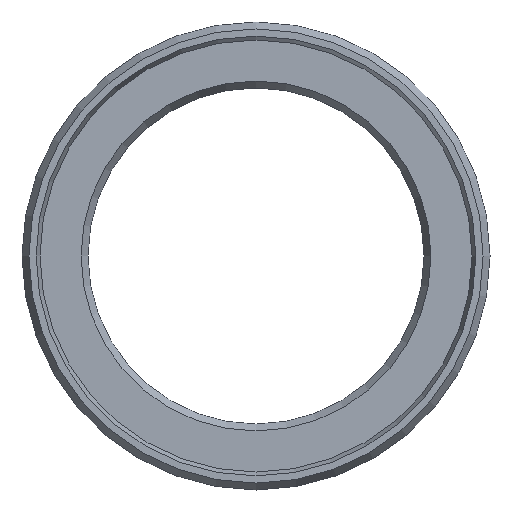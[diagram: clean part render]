
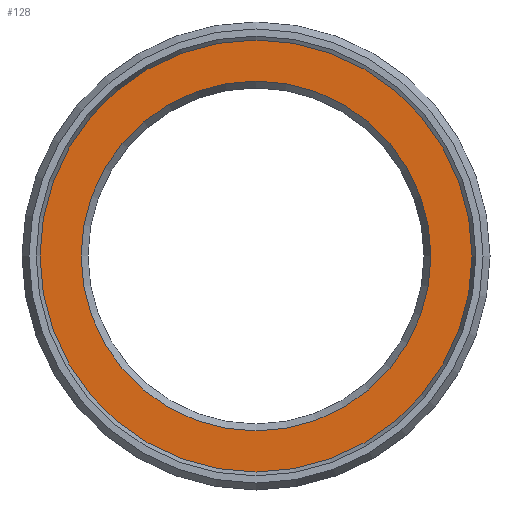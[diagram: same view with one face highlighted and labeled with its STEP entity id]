
A CAD part, left-side view. The second image highlights one B-rep face of the part: STEP entity #128.
In plain terms, the highlighted planar face has unit normal (-1, 0, 0).
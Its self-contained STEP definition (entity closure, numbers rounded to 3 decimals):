
#112=PLANE('',#329);
#128=ADVANCED_FACE('',(#163,#164),#112,.T.);
#163=FACE_BOUND('',#199,.T.);
#164=FACE_BOUND('',#200,.T.);
#199=EDGE_LOOP('',(#235));
#200=EDGE_LOOP('',(#236));
#235=ORIENTED_EDGE('',*,*,#276,.T.);
#236=ORIENTED_EDGE('',*,*,#275,.F.);
#257=VERTEX_POINT('',#454);
#258=VERTEX_POINT('',#457);
#275=EDGE_CURVE('',#257,#257,#293,.T.);
#276=EDGE_CURVE('',#258,#258,#294,.T.);
#293=CIRCLE('',#326,18.);
#294=CIRCLE('',#328,14.577);
#326=AXIS2_PLACEMENT_3D('',#453,#394,#395);
#328=AXIS2_PLACEMENT_3D('',#456,#398,#399);
#329=AXIS2_PLACEMENT_3D('',#458,#400,#401);
#394=DIRECTION('',(1.,0.,0.));
#395=DIRECTION('',(0.,0.,-1.));
#398=DIRECTION('',(1.,0.,0.));
#399=DIRECTION('',(0.,0.,1.));
#400=DIRECTION('',(-1.,0.,0.));
#401=DIRECTION('',(0.,0.,1.));
#453=CARTESIAN_POINT('',(0.,0.,0.));
#454=CARTESIAN_POINT('',(0.,0.,-18.));
#456=CARTESIAN_POINT('',(0.,0.,0.));
#457=CARTESIAN_POINT('',(0.,0.,14.577));
#458=CARTESIAN_POINT('',(0.,18.,0.));
